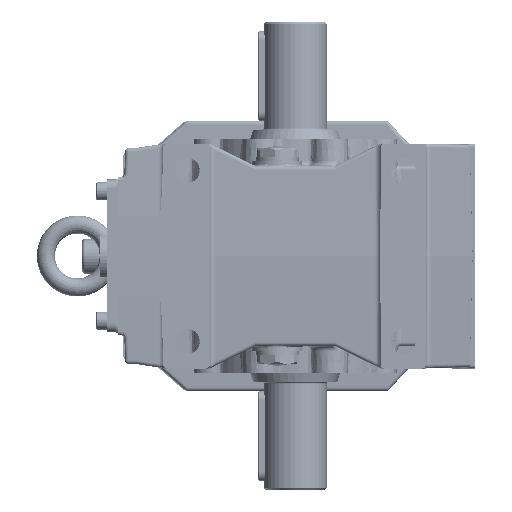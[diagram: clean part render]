
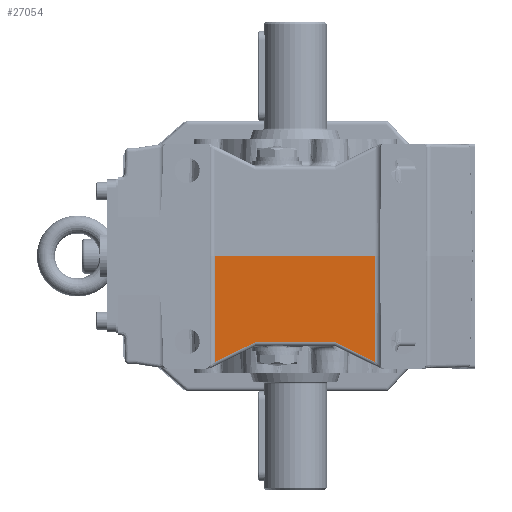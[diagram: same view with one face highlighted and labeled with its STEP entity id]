
A CAD part, left-side view. The second image highlights one B-rep face of the part: STEP entity #27054.
In plain terms, the highlighted planar face has unit normal (-1, 0, -0.026).
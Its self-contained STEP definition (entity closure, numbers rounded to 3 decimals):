
#26999=CARTESIAN_POINT('',(-88.309,-97.,-0.017));
#27000=DIRECTION('',(1.,0.,0.026));
#27001=DIRECTION('',(0.026,0.,-1.));
#27002=AXIS2_PLACEMENT_3D('',#26999,#27000,#27001);
#27003=PLANE('',#27002);
#27004=CARTESIAN_POINT('',(-86.768,-44.5,-58.854));
#27005=VERTEX_POINT('',#27004);
#27006=CARTESIAN_POINT('',(-87.051,-22.464,-48.052));
#27007=VERTEX_POINT('',#27006);
#27008=CARTESIAN_POINT('',(-86.768,-44.5,-58.854));
#27009=DIRECTION('',(-0.012,0.898,0.44));
#27010=VECTOR('',#27009,24.543);
#27011=LINE('',#27008,#27010);
#27012=EDGE_CURVE('',#27005,#27007,#27011,.T.);
#27013=ORIENTED_EDGE('',*,*,#27012,.F.);
#27014=CARTESIAN_POINT('',(-88.309,-44.5,0.));
#27015=VERTEX_POINT('',#27014);
#27016=CARTESIAN_POINT('',(-88.309,-44.5,0.));
#27017=DIRECTION('',(0.026,0.,-1.));
#27018=VECTOR('',#27017,58.875);
#27019=LINE('',#27016,#27018);
#27020=EDGE_CURVE('',#27015,#27005,#27019,.T.);
#27021=ORIENTED_EDGE('',*,*,#27020,.F.);
#27022=CARTESIAN_POINT('',(-88.309,44.5,0.));
#27023=VERTEX_POINT('',#27022);
#27024=CARTESIAN_POINT('',(-88.309,-44.5,0.));
#27025=DIRECTION('',(0.0,1.0,0.0));
#27026=VECTOR('',#27025,89.);
#27027=LINE('',#27024,#27026);
#27028=EDGE_CURVE('',#27023,#27015,#27027,.F.);
#27029=ORIENTED_EDGE('',*,*,#27028,.F.);
#27030=CARTESIAN_POINT('',(-86.768,44.5,-58.854));
#27031=VERTEX_POINT('',#27030);
#27032=CARTESIAN_POINT('',(-86.768,44.5,-58.854));
#27033=DIRECTION('',(-0.026,0.0,1.));
#27034=VECTOR('',#27033,58.875);
#27035=LINE('',#27032,#27034);
#27036=EDGE_CURVE('',#27031,#27023,#27035,.T.);
#27037=ORIENTED_EDGE('',*,*,#27036,.F.);
#27038=CARTESIAN_POINT('',(-87.051,22.464,-48.052));
#27039=VERTEX_POINT('',#27038);
#27040=CARTESIAN_POINT('',(-87.051,22.464,-48.052));
#27041=DIRECTION('',(0.012,0.898,-0.44));
#27042=VECTOR('',#27041,24.543);
#27043=LINE('',#27040,#27042);
#27044=EDGE_CURVE('',#27039,#27031,#27043,.T.);
#27045=ORIENTED_EDGE('',*,*,#27044,.F.);
#27046=CARTESIAN_POINT('',(-87.051,-22.464,-48.052));
#27047=DIRECTION('',(0.0,1.0,0.0));
#27048=VECTOR('',#27047,44.928);
#27049=LINE('',#27046,#27048);
#27050=EDGE_CURVE('',#27007,#27039,#27049,.T.);
#27051=ORIENTED_EDGE('',*,*,#27050,.F.);
#27052=EDGE_LOOP('',(#27013,#27021,#27029,#27037,#27045,#27051));
#27053=FACE_OUTER_BOUND('',#27052,.T.);
#27054=ADVANCED_FACE('',(#27053),#27003,.F.);
